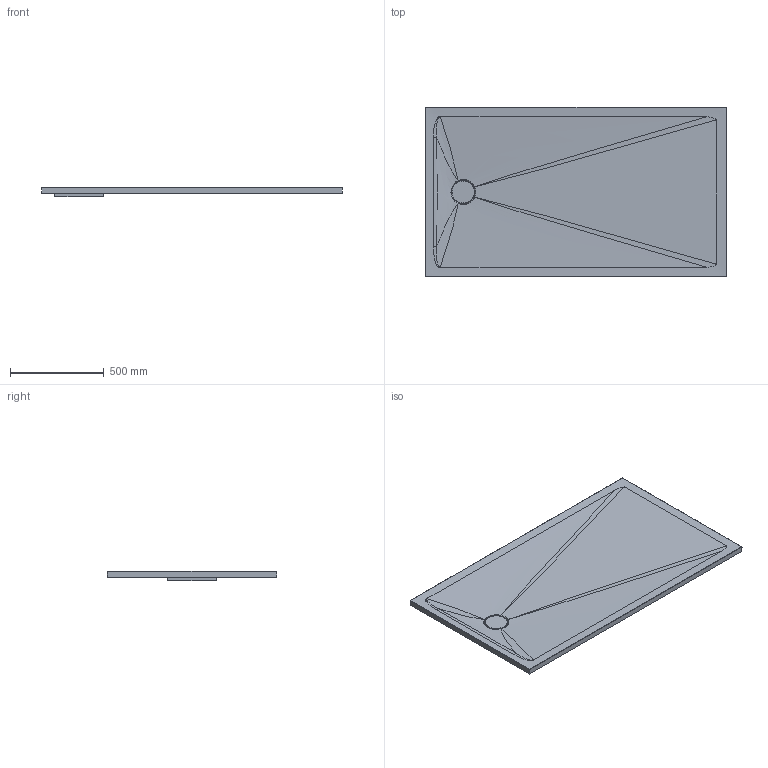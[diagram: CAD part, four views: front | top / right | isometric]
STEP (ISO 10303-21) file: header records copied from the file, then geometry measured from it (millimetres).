
FILE_DESCRIPTION (( 'STEP AP214' ), '1' );
FILE_NAME ('ARON 160x90.STEP', '2024-05-13T11:36:36', ( '' ), ( '' ), 'SwSTEP 2.0', 'SolidWorks 2021', '' );
FILE_SCHEMA (( 'AUTOMOTIVE_DESIGN' ));
Length unit declared in the file: millimetre
Products named in the file (1): ARON 160x90
Bounding box: 1600 x 900 x 48 mm (x, y, z)
Volume: 35472503.4 mm3; surface area: 3062667.7 mm2
Topology: 2 solids, 2 shells, 75 faces, 170 edges, 101 vertices
Faces by surface type: bspline 39, cylinder 19, plane 17
Full cylindrical faces by diameter (mm): 9 x3, 90 x1, 119 x1
Entity records: 12594 total; most frequent: CARTESIAN_POINT 11210, ORIENTED_EDGE 316, DIRECTION 166, EDGE_CURVE 158, VERTEX_POINT 101, B_SPLINE_CURVE_WITH_KNOTS 93, EDGE_LOOP 91, FACE_OUTER_BOUND 83
